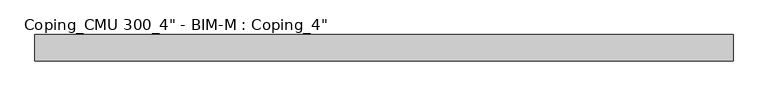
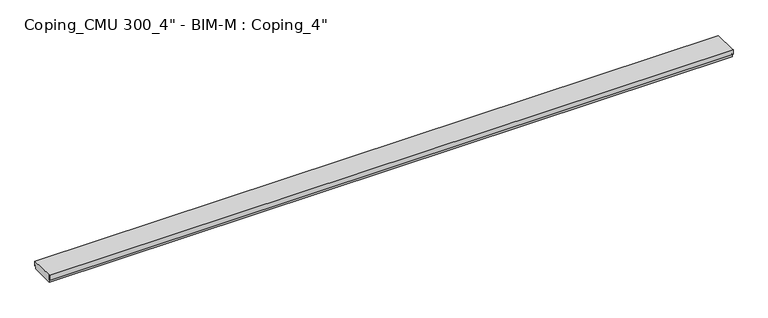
"""IFC4 building model written with IfcOpenShell, lengths in millimetres: proxy geometry."""

from ifc_helpers import new_model, si_unit, frame, origin, place, context, project, spatial, polyline, circle_curve, source, transform, mapped, element, save
from ifc_brep_helpers import plane_surface, revolved_surface, advanced_brep


def proxy_2871650f(model_context):
    return source(origin(), model_context, "Body", "AdvancedBrep", [
        advanced_brep(
        [(11830.2536348, 0.0, 88.1977357), (11830.2536348, 0.0, 0.0), (11830.2536348, 0.0, -50.8), (11830.2536348, 406.4, -50.8), (11830.2536348, 406.4, 0.0), (11830.2536348, 409.575, 0.0), (11830.2536348, 422.275, 0.0), (11830.2536348, 425.45, 0.0), (11830.2536348, 425.45, 76.3727891), (11830.2536348, -19.05, 88.7272109), (11830.2536348, -19.05, 0.0), (11830.2536348, -15.875, 0.0), (11830.2536348, -3.175, 0.0), (0.0, 0.0, 88.1977357), (0.0, 0.0, 0.0), (0.0, -3.175, 0.0), (0.0, -15.875, 0.0), (0.0, -19.05, 0.0), (0.0, -19.05, 88.7272109), (0.0, 425.45, 76.3727891), (0.0, 425.45, 0.0), (0.0, 422.275, 0.0), (0.0, 409.575, 0.0), (0.0, 406.4, 0.0), (0.0, 406.4, -50.8), (0.0, 0.0, -50.8)],
        [
            (0, 1),
            (1, 2),
            (2, 3),
            (3, 4),
            (4, 5),
            (5, 6, circle_curve(frame((11830.2536348, 415.925, 0.0), z_axis=(-1.0, 0.0, 0.0), x_axis=(0.0, -1.0, 0.0)), 6.35)),
            (6, 7),
            (7, 8),
            (8, 0),
            (0, 9),
            (9, 10),
            (10, 11),
            (11, 12, circle_curve(frame((11830.2536348, -9.525, 0.0), z_axis=(-1.0, 0.0, 0.0), x_axis=(0.0, -1.0, 0.0)), 6.35)),
            (12, 1),
            (13, 14),
            (14, 15),
            (15, 16, circle_curve(frame((0.0, -9.525, 0.0), z_axis=(1.0, 0.0, 0.0), x_axis=(0.0, -1.0, 0.0)), 6.35)),
            (16, 17),
            (17, 18),
            (18, 13),
            (13, 19),
            (19, 20),
            (20, 21),
            (21, 22, circle_curve(frame((0.0, 415.925, 0.0), z_axis=(1.0, 0.0, 0.0), x_axis=(0.0, -1.0, 0.0)), 6.35)),
            (22, 23),
            (23, 24),
            (24, 25),
            (25, 14),
            (8, 19),
            (18, 9),
            (17, 10),
            (16, 11),
            (15, 12),
            (14, 1),
            (5, 22),
            (21, 6),
            (4, 23),
            (7, 20),
            (25, 2),
            (24, 3),
        ],
        [
            plane_surface(frame((11830.2536348, 889.0, 304.8), z_axis=(1.0, 0.0, 0.0), x_axis=(0.0, 0.0, -1.0))),
            plane_surface(frame((11830.2536348, 0.0, 304.8), z_axis=(1.0, 0.0, 0.0), x_axis=(0.0, 0.0, -1.0))),
            plane_surface(frame((0.0, -889.0, 304.8), z_axis=(-1.0, 0.0, 0.0), x_axis=(0.0, 0.0, -1.0))),
            plane_surface(frame((0.0, 0.0, 304.8), z_axis=(-1.0, 0.0, 0.0), x_axis=(0.0, 0.0, -1.0))),
            plane_surface(frame((12287.4536348, 425.45, 76.3727891), z_axis=(0.0, 0.027783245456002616, 0.9996139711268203), x_axis=(-1.0, 0.0, 0.0))),
            plane_surface(frame((12287.4536348, -19.05, 88.7272109), z_axis=(0.0, -1.0, 0.0), x_axis=(-1.0, 0.0, 0.0))),
            plane_surface(frame((12287.4536348, -19.05, 0.0), z_axis=(0.0, 0.0, -1.0), x_axis=(-1.0, 0.0, 0.0))),
            revolved_surface(polyline([(0.0, -15.875, 0.0), (11830.2536348, -15.875, 0.0)]), (12287.4536348, -9.525, 0.0), (-1.0, 0.0, 0.0)),
            plane_surface(frame((12287.4536348, -3.175, 0.0), z_axis=(0.0, 0.0, -1.0), x_axis=(-1.0, 0.0, 0.0))),
            revolved_surface(polyline([(0.0, 409.575, 0.0), (11830.2536348, 409.575, 0.0)]), (12287.4536348, 415.925, 0.0), (-1.0, 0.0, 0.0)),
            plane_surface(frame((12287.4536348, 406.4, 0.0), z_axis=(0.0, 0.0, -1.0), x_axis=(-1.0, 0.0, 0.0))),
            plane_surface(frame((12287.4536348, 425.45, 0.0), z_axis=(0.0, 1.0, 0.0), x_axis=(-1.0, 0.0, 0.0))),
            plane_surface(frame((12287.4536348, 0.0, 0.0), z_axis=(0.0, -1.0, 0.0), x_axis=(-1.0, 0.0, 0.0))),
            plane_surface(frame((12287.4536348, 0.0, -50.8), z_axis=(0.0, 0.0, -1.0), x_axis=(-1.0, 0.0, 0.0))),
            plane_surface(frame((12287.4536348, 406.4, -50.8), z_axis=(0.0, 1.0, 0.0), x_axis=(-1.0, 0.0, 0.0))),
            plane_surface(frame((12287.4536348, 422.275, 0.0), z_axis=(0.0, 0.0, -1.0), x_axis=(-1.0, 0.0, 0.0))),
        ],
        [
            (0, [[1, 2, 3, 4, 5, 6, 7, 8, 9]]),
            (1, [[-1, 10, 11, 12, 13, 14]]),
            (2, [[15, 16, 17, 18, 19, 20]]),
            (3, [[-15, 21, 22, 23, 24, 25, 26, 27, 28]]),
            (4, [[-9, 29, -21, -20, 30, -10]]),
            (5, [[-11, -30, -19, 31]]),
            (6, [[-12, -31, -18, 32]]),
            (7, [[-13, -32, -17, 33]]),
            (8, [[-14, -33, -16, 34]]),
            (9, [[-6, 35, -24, 36]]),
            (10, [[-5, 37, -25, -35]]),
            (11, [[-8, 38, -22, -29]]),
            (12, [[-2, -34, -28, 39]]),
            (13, [[-3, -39, -27, 40]]),
            (14, [[-4, -40, -26, -37]]),
            (15, [[-7, -36, -23, -38]]),
        ],
    ),
    ])


if __name__ == "__main__":
    model = new_model("IFC4")
    model_context = context("Model", 3, world=origin())
    ifc_project = project(units=[si_unit("LENGTHUNIT", "METRE", prefix="MILLI")], contexts=[model_context])
    site = spatial("IfcSite", under=ifc_project)
    building = spatial("IfcBuilding", under=site)
    placement = place(None, origin())
    proxy_shape = proxy_2871650f(model_context)
    element("IfcBuildingElementProxy", 1, Name="Coping_CMU 300_4\" - BIM-M : Coping_4\"", ObjectType="Coping_CMU 300_4\" - BIM-M : Coping_4\"", at=placement, inside=building, context=model_context, shape_type="MappedRepresentation", body=[
        mapped(proxy_shape, transform((0.0, 0.0, 0.0), x_axis=(1.0, 0.0, 0.0), y_axis=(0.0, 1.0, 0.0), z_axis=(0.0, 0.0, 1.0))),
    ])
    save(model, "model.ifc")
